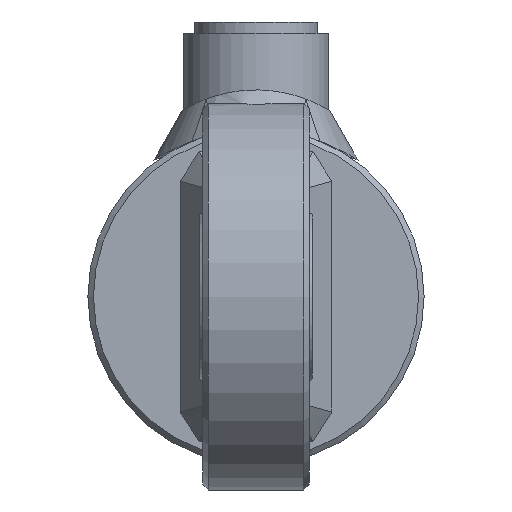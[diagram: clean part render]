
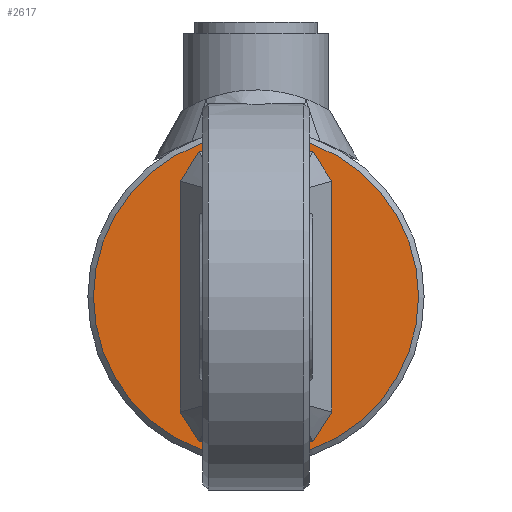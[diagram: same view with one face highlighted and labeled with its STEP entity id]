
A CAD part, left-side view. The second image highlights one B-rep face of the part: STEP entity #2617.
In plain terms, the highlighted planar face has unit normal (-1, 0, 0).
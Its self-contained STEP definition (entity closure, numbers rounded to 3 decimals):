
#2617 = ADVANCED_FACE( '', ( #9244 ), #9245, .T. );
#9244 = FACE_OUTER_BOUND( '', #10952, .T. );
#9245 = PLANE( '', #10953 );
#10952 = EDGE_LOOP( '', ( #11716 ) );
#10953 = AXIS2_PLACEMENT_3D( '', #11717, #11718, #11719 );
#11716 = ORIENTED_EDGE( '', *, *, #12833, .T. );
#11717 = CARTESIAN_POINT( '', ( -10., 0., 0. ) );
#11718 = DIRECTION( '', ( -1., 0., 0. ) );
#11719 = DIRECTION( '', ( 0., -1., 0. ) );
#12833 = EDGE_CURVE( '', #16351, #16351, #16352, .T. );
#16351 = VERTEX_POINT( '', #16964 );
#16352 = CIRCLE( '', #16965, 29. );
#16964 = CARTESIAN_POINT( '', ( -10., -29., 0. ) );
#16965 = AXIS2_PLACEMENT_3D( '', #17076, #17077, #17078 );
#17076 = CARTESIAN_POINT( '', ( -10., 0., 0. ) );
#17077 = DIRECTION( '', ( -1., 0., 0. ) );
#17078 = DIRECTION( '', ( 0., -1., 0. ) );
